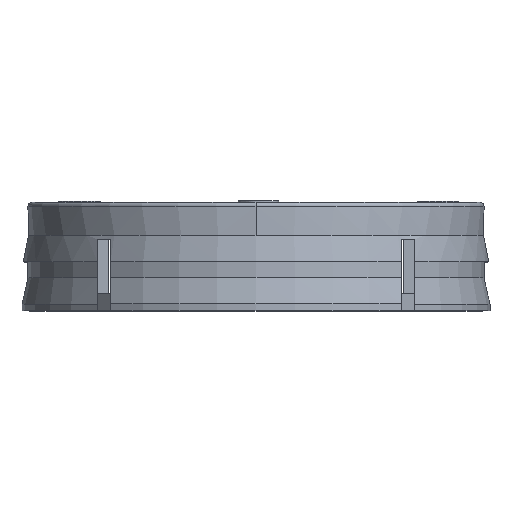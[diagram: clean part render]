
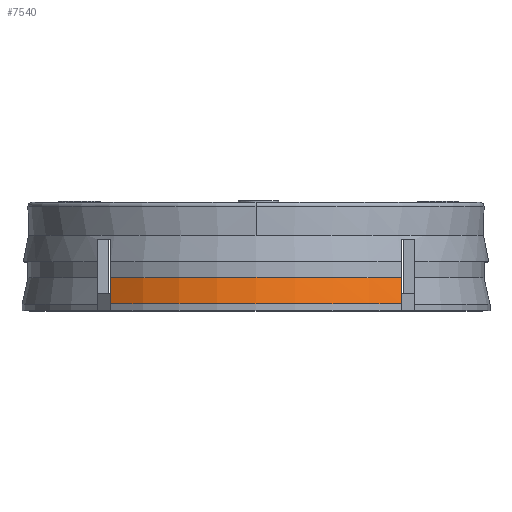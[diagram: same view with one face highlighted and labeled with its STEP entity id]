
A CAD part, top view. The second image highlights one B-rep face of the part: STEP entity #7540.
In plain terms, the highlighted conical face has half-angle 12.68 degrees and reference radius 17.25 mm.
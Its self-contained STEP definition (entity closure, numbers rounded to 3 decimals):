
#837 = AXIS2_PLACEMENT_3D ( 'NONE', #20969, #13993, #8927 ) ;
#2392 = AXIS2_PLACEMENT_3D ( 'NONE', #18921, #11955, #24462 ) ;
#3554 = ORIENTED_EDGE ( 'NONE', *, *, #23520, .T. ) ;
#3561 = EDGE_CURVE ( 'NONE', #16989, #25004, #19012, .T. ) ;
#4625 = DIRECTION ( 'NONE',  ( 0., 0., -1. ) ) ;
#5020 = CARTESIAN_POINT ( 'NONE',  ( 11., 0.5, 13.867 ) ) ;
#5480 = CARTESIAN_POINT ( 'NONE',  ( -11., 0.5, 13.867 ) ) ;
#7530 = ORIENTED_EDGE ( 'NONE', *, *, #3561, .T. ) ;
#7540 = ADVANCED_FACE ( 'NONE', ( #28737 ), #22655, .T. ) ;
#8927 = DIRECTION ( 'NONE',  ( 0., 0., -1. ) ) ;
#9654 = CARTESIAN_POINT ( 'NONE',  ( 11., 1.167, 13.675 ) ) ;
#9711 = CARTESIAN_POINT ( 'NONE',  ( 0., 0.5, 0. ) ) ;
#11955 = DIRECTION ( 'NONE',  ( 0., -1., 0. ) ) ;
#12219 = CARTESIAN_POINT ( 'NONE',  ( -11., 2.5, 13.288 ) ) ;
#13019 = AXIS2_PLACEMENT_3D ( 'NONE', #9711, #16686, #4625 ) ;
#13993 = DIRECTION ( 'NONE',  ( 0., -1., 0. ) ) ;
#14565 = CARTESIAN_POINT ( 'NONE',  ( 11., 0.5, 13.867 ) ) ;
#15397 = EDGE_CURVE ( 'NONE', #19058, #25004, #30209, .T. ) ;
#15574 = CARTESIAN_POINT ( 'NONE',  ( 11., 2.5, 13.288 ) ) ;
#16686 = DIRECTION ( 'NONE',  ( 0., -1., 0. ) ) ;
#16930 = CARTESIAN_POINT ( 'NONE',  ( 11., 1.834, 13.482 ) ) ;
#16989 = VERTEX_POINT ( 'NONE', #12219 ) ;
#18437 = EDGE_LOOP ( 'NONE', ( #19764, #3554, #26141, #7530 ) ) ;
#18921 = CARTESIAN_POINT ( 'NONE',  ( 0., 2.5, 0. ) ) ;
#19012 = B_SPLINE_CURVE_WITH_KNOTS ( 'NONE', 3,
 ( #19905, #27024, #20233, #5480 ),
 .UNSPECIFIED., .F., .F.,
 ( 4, 4 ),
 ( 0.009, 0.011 ),
 .UNSPECIFIED. ) ;
#19058 = VERTEX_POINT ( 'NONE', #5020 ) ;
#19468 = CARTESIAN_POINT ( 'NONE',  ( 11., 2.5, 13.288 ) ) ;
#19764 = ORIENTED_EDGE ( 'NONE', *, *, #15397, .F. ) ;
#19905 = CARTESIAN_POINT ( 'NONE',  ( -11., 2.5, 13.288 ) ) ;
#20233 = CARTESIAN_POINT ( 'NONE',  ( -11., 1.167, 13.675 ) ) ;
#20622 = CIRCLE ( 'NONE', #837, 17.25 ) ;
#20969 = CARTESIAN_POINT ( 'NONE',  ( 0., 2.5, 0. ) ) ;
#21017 = CARTESIAN_POINT ( 'NONE',  ( -11., 0.5, 13.867 ) ) ;
#21475 = B_SPLINE_CURVE_WITH_KNOTS ( 'NONE', 3,
 ( #14565, #9654, #16930, #19468 ),
 .UNSPECIFIED., .F., .F.,
 ( 4, 4 ),
 ( 0.01, 0.012 ),
 .UNSPECIFIED. ) ;
#22655 = CONICAL_SURFACE ( 'NONE', #2392, 17.25, 0.221 ) ;
#23520 = EDGE_CURVE ( 'NONE', #19058, #26679, #21475, .T. ) ;
#24462 = DIRECTION ( 'NONE',  ( 0., 0., -1. ) ) ;
#25004 = VERTEX_POINT ( 'NONE', #21017 ) ;
#26141 = ORIENTED_EDGE ( 'NONE', *, *, #27222, .T. ) ;
#26679 = VERTEX_POINT ( 'NONE', #15574 ) ;
#27024 = CARTESIAN_POINT ( 'NONE',  ( -11., 1.834, 13.482 ) ) ;
#27222 = EDGE_CURVE ( 'NONE', #26679, #16989, #20622, .T. ) ;
#28737 = FACE_OUTER_BOUND ( 'NONE', #18437, .T. ) ;
#30209 = CIRCLE ( 'NONE', #13019, 17.7 ) ;
